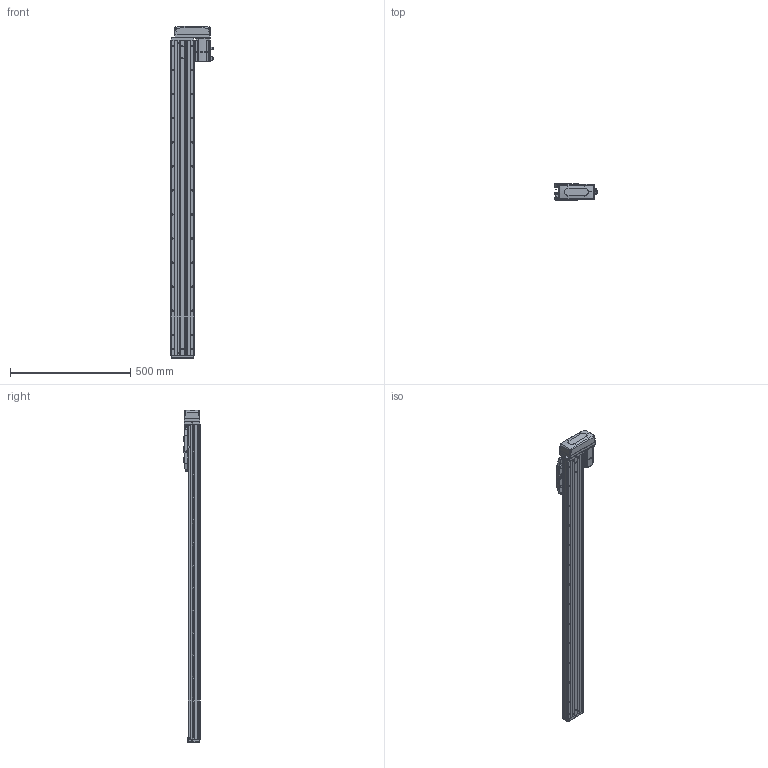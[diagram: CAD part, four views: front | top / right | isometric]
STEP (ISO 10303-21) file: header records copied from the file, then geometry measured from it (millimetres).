
FILE_DESCRIPTION (( 'STEP AP203' ), '1' );
FILE_NAME ('CTHA100-1100-BL-M20-C4L.step', '2022-07-06T08:56:14', ( '微软用户' ), ( '微软中国' ), 'SwSTEP 2.0', 'SolidWorks 2020', '' );
FILE_SCHEMA (( 'CONFIG_CONTROL_DESIGN' ));
Length unit declared in the file: millimetre
Products named in the file (19): _X2_4E0983F1_X0_200W_1; CTHA100-1100-BL-M20-C4L; CTHA60-017; CTHA100-002; CTHA60-021; CTHA100-031; KTHA100-001_1310; GBT77-2000 M3×3; CTHA86-030; KTHA100-004; GBT 70.1-M3℅6; GBT 70.3-M3℅6; KTHA100-005; GBT70.1 M5℅16; CTHA86-015-1_CTHA86-015-2; GB¨uT 70.2-M3¡Á5_M3¡Á6; CTHA60-016; CTHA86-033; EE_SX911P_R
Assembly tree (64 placements, depth 2):
  CTHA100-1100-BL-M20-C4L
    KTHA100-001_1310
    KTHA100-004
    KTHA100-005
    GB¨uT 70.2-M3¡Á5_M3¡Á6  x10
    EE_SX911P_R  x3
    CTHA60-017  x3
    CTHA60-021  x2
    GBT77-2000 M3×3  x6
    GBT 70.1-M3℅6  x10
    GBT70.1 M5℅16  x14
    CTHA60-016  x2
    _X2_4E0983F1_X0_200W_1
    CTHA100-002
    CTHA100-031
    CTHA86-030  x2
    GBT 70.3-M3℅6  x4
    CTHA86-015-1_CTHA86-015-2
    CTHA86-033
Bounding box: 177.7 x 68 x 1381 mm (x, y, z)
Volume: 5413447.9 mm3; surface area: 889927.2 mm2
Topology: 66 solids, 66 shells, 2789 faces, 6751 edges, 4192 vertices
Faces by surface type: plane 1464, cylinder 737, cone 365, torus 124, bspline 75, sphere 24
Entity records: 49868 total; most frequent: CARTESIAN_POINT 9707, DIRECTION 7754, ORIENTED_EDGE 7618, EDGE_CURVE 3809, AXIS2_PLACEMENT_3D 2611, LINE 2532, VECTOR 2532, VERTEX_POINT 2412
